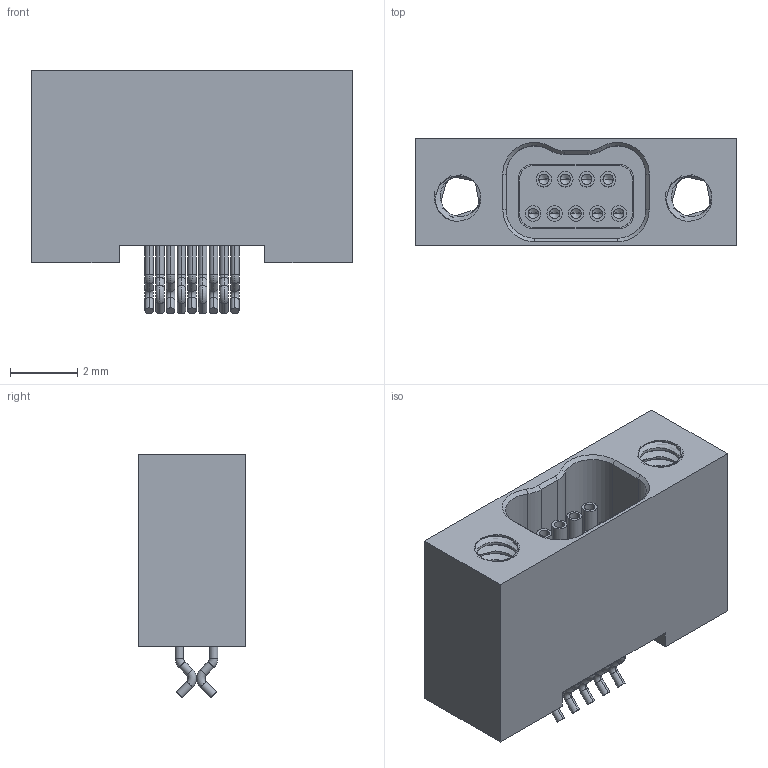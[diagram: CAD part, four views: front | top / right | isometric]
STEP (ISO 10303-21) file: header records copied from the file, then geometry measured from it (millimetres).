
FILE_DESCRIPTION (( 'STEP AP214' ), '1' );
FILE_NAME ('A29300-009 REV J.STEP', '2015-11-05T12:14:18', ( '' ), ( '' ), 'SwSTEP 2.0', 'SolidWorks 2015', '' );
FILE_SCHEMA (( 'AUTOMOTIVE_DESIGN' ));
Length unit declared in the file: inch
Products named in the file (1): A29300-009
Bounding box: 9.53 x 3.19 x 7.23 mm (x, y, z)
Volume: 121.7 mm3; surface area: 401 mm2
Topology: 1 solids, 1 shells, 447 faces, 1131 edges, 711 vertices
Faces by surface type: cylinder 178, plane 155, bspline 54, torus 36, cone 24
Entity records: 22019 total; most frequent: CARTESIAN_POINT 10978, ORIENTED_EDGE 2226, DIRECTION 1897, EDGE_CURVE 1113, VERTEX_POINT 711, AXIS2_PLACEMENT_3D 648, VECTOR 601, LINE 601
